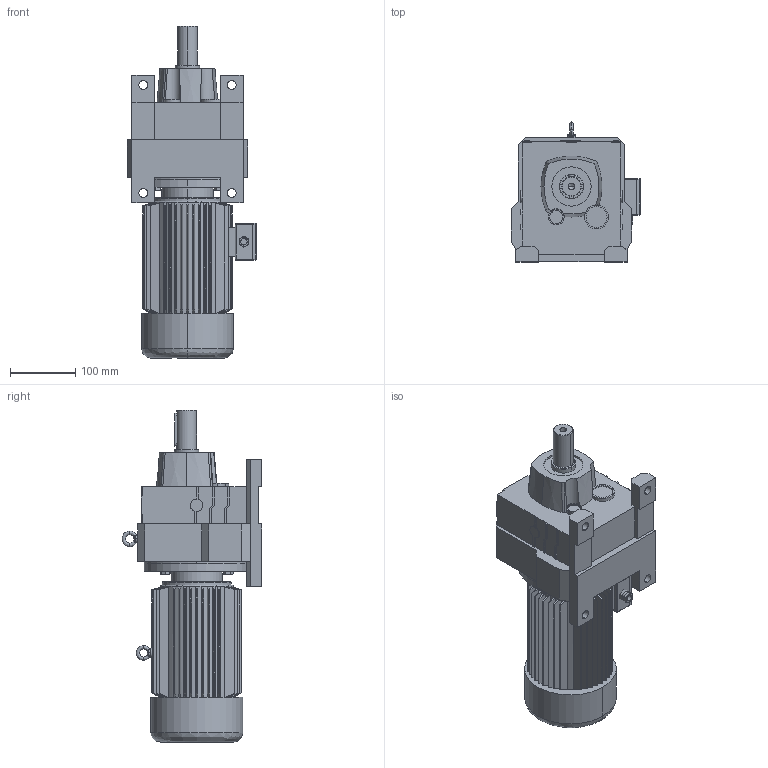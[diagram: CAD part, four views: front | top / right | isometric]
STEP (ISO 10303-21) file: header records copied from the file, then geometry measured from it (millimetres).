
FILE_DESCRIPTION (( 'STEP AP214' ), '1' );
FILE_NAME ('MR47.step', '2020-06-27T02:42:10', ( '' ), ( '' ), 'SwSTEP 2.0', 'SolidWorks 2016', '' );
FILE_SCHEMA (( 'AUTOMOTIVE_DESIGN' ));
Length unit declared in the file: millimetre
Products named in the file (1): MR47
Bounding box: 197.81 x 213.75 x 507 mm (x, y, z)
Volume: 7456792.9 mm3; surface area: 520964.8 mm2
Topology: 3 solids, 3 shells, 931 faces, 2407 edges, 1526 vertices
Faces by surface type: plane 507, cone 161, cylinder 133, bspline 130
Entity records: 41813 total; most frequent: CARTESIAN_POINT 10184, ORIENTED_EDGE 4794, DIRECTION 3872, EDGE_CURVE 2397, VERTEX_POINT 1526, VECTOR 1308, LINE 1308, AXIS2_PLACEMENT_3D 1282
